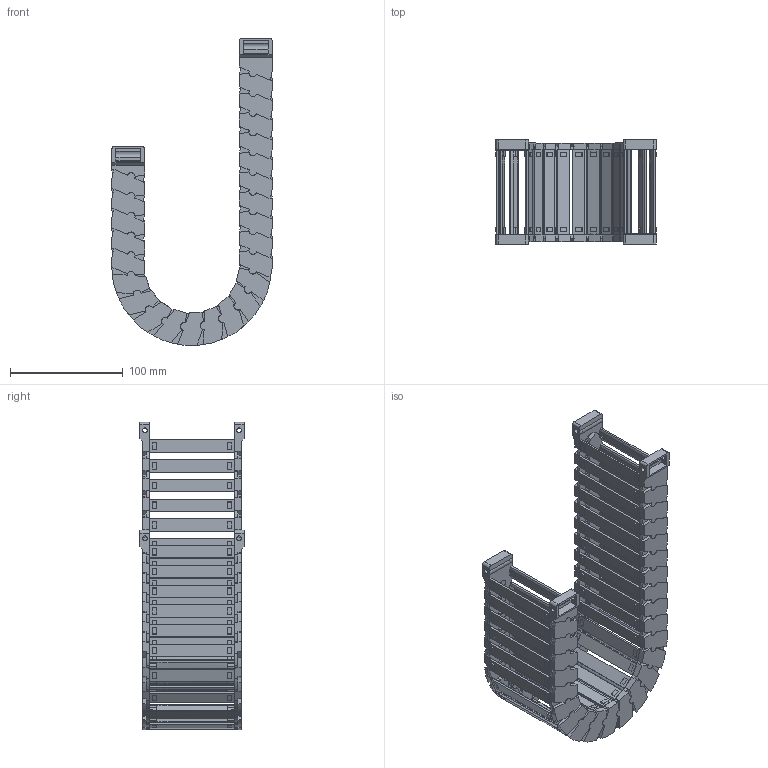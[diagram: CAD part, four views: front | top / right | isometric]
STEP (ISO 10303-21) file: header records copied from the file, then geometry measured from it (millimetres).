
FILE_DESCRIPTION(/* description */ (''),/* implementation_level */ '2;1');
FILE_NAME(/* name */ 'JY22-75-R55.stp',/* time_stamp */ '2026-06-20T14:54:07+08:00',/* author */ (''),/* organization */ (''),/* preprocessor_version */ 'ST-DEVELOPER v19.4',/* originating_system */ 'SIEMENS PLM Software NX2306.5001',/* authorisation */ '');
FILE_SCHEMA (('AP203_CONFIGURATION_CONTROLLED_3D_DESIGN_OF_MECHANICAL_PARTS_AND_ASSEMBLIES_MIM_LF { 1 0 10303 403 2 1 2}'));
Products named in the file (1): 简易图纸_Admi079CF058wvwf
Bounding box: 142.01 x 92.5 x 272.44 mm (x, y, z)
Volume: 259435.2 mm3; surface area: 233010.5 mm2
Topology: 26 solids, 26 shells, 4302 faces, 13928 edges, 9272 vertices
Faces by surface type: plane 3222, cylinder 684, cone 200, bspline 196
Full cylindrical faces by diameter (mm): 4.2 x8, 7 x50, 7.1 x50
Entity records: 160042 total; most frequent: CARTESIAN_POINT 37943, ORIENTED_EDGE 27424, DIRECTION 23666, EDGE_CURVE 13712, LINE 9376, VECTOR 9376, VERTEX_POINT 9164, AXIS2_PLACEMENT_3D 7145
